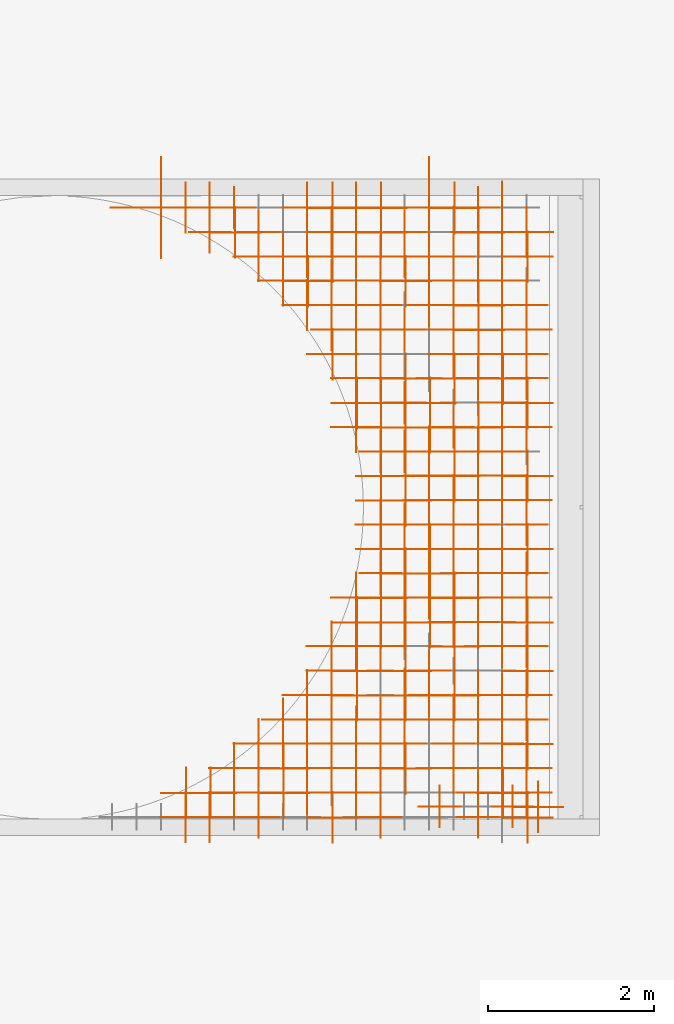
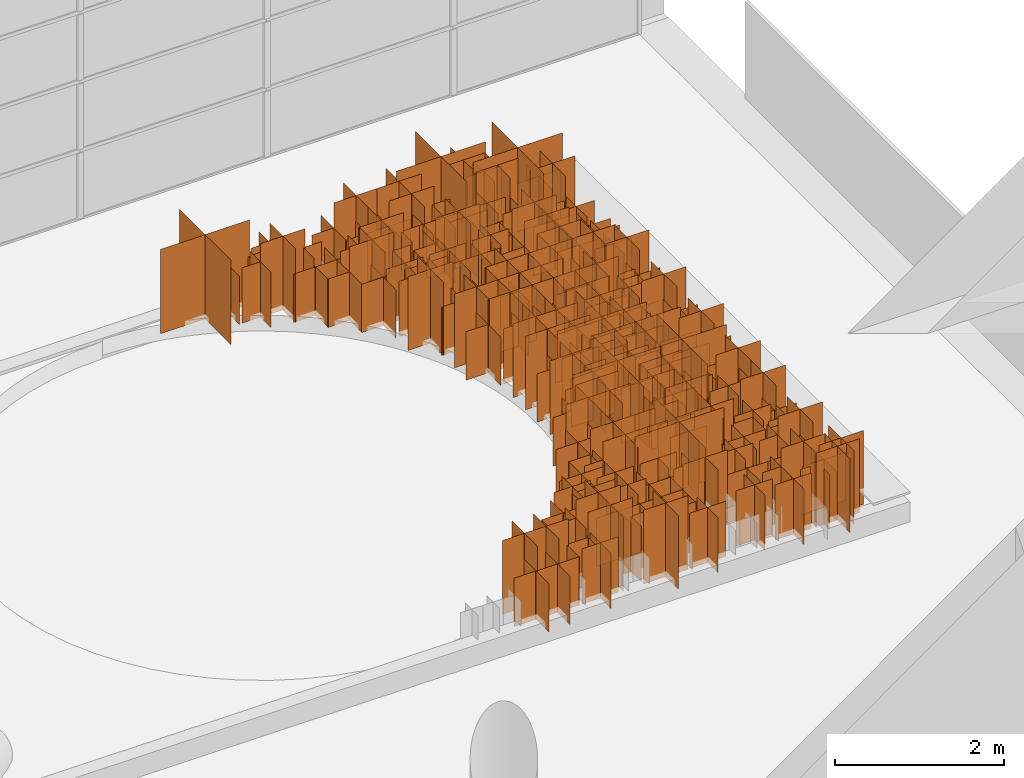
# One storey, part 104 of 105: 204 geographic elements.
"""IFC4 building model written with IfcOpenShell, lengths in millimetres."""

from ifc_helpers import new_model, entity, si_unit, converted_unit, derived_unit, direction, frame, origin_with_axes, place, context, subcontext, project, spatial, triangles, material, type_object, element, save


model = new_model("IFC4")

# Units and contexts
model_context = context("Model", 3, precision=1e-05, world=origin_with_axes(), true_north=direction((0.0, 1.0)))
body_context = subcontext(model_context, "Body", "Model", "MODEL_VIEW")
ifc_project = project(units=[si_unit("LENGTHUNIT", "METRE", prefix="MILLI"), si_unit("AREAUNIT", "SQUARE_METRE"), si_unit("VOLUMEUNIT", "CUBIC_METRE"), converted_unit("PLANEANGLEUNIT", "DEGREE", entity("IfcLengthMeasure", 0.017453), si_unit("PLANEANGLEUNIT", "RADIAN"), dimensions=[0, 0, 0, 0, 0, 0, 0]), si_unit("SOLIDANGLEUNIT", "STERADIAN"), si_unit("MASSUNIT", "GRAM"), si_unit("TIMEUNIT", "SECOND"), si_unit("THERMODYNAMICTEMPERATUREUNIT", "DEGREE_CELSIUS"), si_unit("LUMINOUSINTENSITYUNIT", "LUMEN"), si_unit("POWERUNIT", "WATT"), derived_unit("THERMALTRANSMITTANCEUNIT", [(si_unit("POWERUNIT", "WATT"), 1), (si_unit("THERMODYNAMICTEMPERATUREUNIT", "KELVIN"), -1), (si_unit("AREAUNIT", "SQUARE_METRE"), -1)])], contexts=[model_context])

# Site, building, storey
site_placement = place(None, origin_with_axes())
site = spatial("IfcSite", under=ifc_project, at=site_placement, Name="Default Site", CompositionType="ELEMENT")
building_placement = place(site_placement, origin_with_axes())
building = spatial("IfcBuilding", under=site, at=building_placement, Name="Default Building", CompositionType="ELEMENT")
storey_placement = place(building_placement, origin_with_axes())
storey = spatial("IfcBuildingStorey", under=building, at=storey_placement, Name="OG - Story", CompositionType="ELEMENT", Elevation=0.0)

# Geographic elements
ifc_material = material(Name="Plant Material")
geographic_element_type_1 = type_object("IfcGeographicElementType", Name="Contemporary Garden", PredefinedType="NOTDEFINED")
placement = place(storey_placement, frame((70423.72863, -30441.633075, 3200.0), z_axis=(0.0, 0.0, 1.0), x_axis=(1.0, 0.0, 0.0)))
for number, where, z_axis, x_axis, name in (
    (1, (3958.827751, -4836.34727, 0.0), (0.0, 0.0, 1.0), (1.0, 0.0, 0.0), "Russian Sage"),
    (2, (3958.827751, -5129.59377, 0.0), (0.0, 0.0, 1.0), (1.0, 0.0, 0.0), "Russian Sage"),
    (3, (3958.827751, -2490.375269, 0.0), (0.0, 0.0, 1.0), (1.0, 0.0, 0.0), "Russian Sage"),
    (4, (4838.567252, -6009.33327, 0.0), (0.0, 0.0, 1.0), (1.0, 0.0, 0.0), "Russian Sage"),
    (5, (5131.813752, -2783.621769, 0.0), (0.0, 0.0, 1.0), (1.0, 0.0, 0.0), "Russian Sage"),
    (6, (4545.320752, -2783.621769, 0.0), (0.0, 0.0, 1.0), (1.0, 0.0, 0.0), "Russian Sage"),
    (7, (4838.567252, -4836.34727, 0.0), (0.0, 0.0, 1.0), (1.0, 0.0, 0.0), "Russian Sage"),
    (8, (1612.855751, -7182.319271, 0.0), (0.0, 0.0, 1.0), (1.0, 0.0, 0.0), "Russian Sage"),
    (9, (5718.306752, -4249.85427, 0.0), (0.0, 0.0, 1.0), (1.0, 0.0, 0.0), "Russian Sage"),
    (10, (4252.074252, -5129.59377, 0.0), (0.0, 0.0, 1.0), (1.0, 0.0, 0.0), "Russian Sage"),
    (11, (3958.827751, -2783.621769, 0.0), (0.0, 0.0, 1.0), (1.0, 0.0, 0.0), "Russian Sage"),
    (12, (5718.306752, -5129.59377, 0.0), (0.0, 0.0, 1.0), (1.0, 0.0, 0.0), "Russian Sage"),
    (13, (5718.306752, -6595.82627, 0.0), (0.0, 0.0, 1.0), (1.0, 0.0, 0.0), "Russian Sage"),
    (14, (3958.827751, -144.403268, 0.0), (0.0, 0.0, 1.0), (1.0, 0.0, 0.0), "Russian Sage"),
    (15, (4545.320752, -5129.59377, 0.0), (0.0, 0.0, 1.0), (1.0, 0.0, 0.0), "Russian Sage"),
    (16, (4252.074252, -3663.361269, 0.0), (0.0, 0.0, 1.0), (1.0, 0.0, 0.0), "Russian Sage"),
    (17, (3958.827751, -4249.85427, 0.0), (0.0, 0.0, 1.0), (1.0, 0.0, 0.0), "Russian Sage"),
    (18, (4838.567252, -144.403268, 0.0), (0.0, 0.0, 1.0), (1.0, 0.0, 0.0), "Russian Sage"),
    (19, (3372.334751, -7475.565771, 0.0), (0.0, 0.0, 1.0), (1.0, 0.0, 0.0), "Russian Sage"),
    (20, (4838.567252, -3370.114769, 0.0), (0.0, 0.0, 1.0), (1.0, 0.0, 0.0), "Russian Sage"),
    (21, (4545.320752, -2490.375269, 0.0), (0.0, 0.0, 1.0), (1.0, 0.0, 0.0), "Russian Sage"),
    (22, (3958.827751, -437.649768, 0.0), (0.0, 0.0, 1.0), (1.0, 0.0, 0.0), "Russian Sage"),
    (23, (2785.841751, -6889.07277, 0.0), (0.0, 0.0, 1.0), (1.0, 0.0, 0.0), "Russian Sage"),
    (24, (4545.320752, -4543.10077, 0.0), (0.0, 0.0, 1.0), (1.0, 0.0, 0.0), "Russian Sage"),
    (25, (4252.074252, -4543.10077, 0.0), (0.0, 0.0, 1.0), (1.0, 0.0, 0.0), "Russian Sage"),
    (26, (4838.567252, -5422.84027, 0.0), (0.0, 0.0, 1.0), (1.0, 0.0, 0.0), "Russian Sage"),
    (27, (3665.581251, -6009.33327, 0.0), (0.0, 0.0, 1.0), (1.0, 0.0, 0.0), "Russian Sage"),
    (28, (3372.334751, -144.403268, 0.0), (0.0, 0.0, 1.0), (1.0, 0.0, 0.0), "Russian Sage"),
    (29, (5131.813752, -1903.882269, 0.0), (0.0, 0.0, 1.0), (1.0, 0.0, 0.0), "Russian Sage"),
    (30, (4545.320752, -4249.85427, 0.0), (0.0, 0.0, 1.0), (1.0, 0.0, 0.0), "Russian Sage"),
    (31, (3665.581251, -5716.08677, 0.0), (0.0, 0.0, 1.0), (1.0, 0.0, 0.0), "Russian Sage"),
    (32, (4252.074252, -5716.08677, 0.0), (0.0, 0.0, 1.0), (1.0, 0.0, 0.0), "Russian Sage"),
    (33, (5131.813752, -437.649768, 0.0), (0.0, 0.0, 1.0), (1.0, 0.0, 0.0), "Russian Sage"),
    (34, (2199.348751, -437.649768, 0.0), (0.0, 0.0, 1.0), (1.0, 0.0, 0.0), "Russian Sage"),
    (35, (3665.581251, -5129.59377, 0.0), (0.0, 0.0, 1.0), (1.0, 0.0, 0.0), "Russian Sage"),
    (36, (5718.306752, -2490.375269, 0.0), (0.0, 0.0, 1.0), (1.0, 0.0, 0.0), "Russian Sage"),
    (37, (2785.841751, -7182.319271, 0.0), (0.0, 0.0, 1.0), (1.0, 0.0, 0.0), "Russian Sage"),
    (38, (3958.827751, -3370.114769, 0.0), (0.0, 0.0, 1.0), (1.0, 0.0, 0.0), "Russian Sage"),
    (39, (5131.813752, -1610.635769, 0.0), (0.0, 0.0, 1.0), (1.0, 0.0, 0.0), "Russian Sage"),
    (40, (5425.060252, -7182.319271, 0.0), (0.0, 0.0, 1.0), (1.0, 0.0, 0.0), "Russian Sage"),
    (41, (1906.102251, -7182.319271, 0.0), (0.0, 0.0, 1.0), (1.0, 0.0, 0.0), "Russian Sage"),
    (42, (4838.567252, -2197.128769, 0.0), (0.0, 0.0, 1.0), (1.0, 0.0, 0.0), "Russian Sage"),
    (43, (4252.074252, -2197.128769, 0.0), (0.0, 0.0, 1.0), (1.0, 0.0, 0.0), "Russian Sage"),
    (44, (4252.074252, -6889.07277, 0.0), (0.0, 0.0, 1.0), (1.0, 0.0, 0.0), "Russian Sage"),
    (45, (5131.813752, -1317.389268, 0.0), (0.0, 0.0, 1.0), (1.0, 0.0, 0.0), "Russian Sage"),
    (46, (4252.074252, -6009.33327, 0.0), (0.0, 0.0, 1.0), (1.0, 0.0, 0.0), "Russian Sage"),
    (47, (3372.334751, -1903.882269, 0.0), (0.0, 0.0, 1.0), (1.0, 0.0, 0.0), "Russian Sage"),
    (48, (4252.074252, -2783.621769, 0.0), (0.0, 0.0, 1.0), (1.0, 0.0, 0.0), "Russian Sage"),
    (49, (4252.074252, -3370.114769, 0.0), (0.0, 0.0, 1.0), (1.0, 0.0, 0.0), "Russian Sage"),
    (50, (4838.567252, -3076.868269, 0.0), (0.0, 0.0, 1.0), (1.0, 0.0, 0.0), "Russian Sage"),
    (51, (5718.306752, -5716.08677, 0.0), (0.0, 0.0, 1.0), (1.0, 0.0, 0.0), "Russian Sage"),
    (52, (3958.827751, -3663.361269, 0.0), (0.0, 0.0, 1.0), (1.0, 0.0, 0.0), "Russian Sage"),
    (53, (3665.581251, -2490.375269, 0.0), (0.0, 0.0, 1.0), (1.0, 0.0, 0.0), "Russian Sage"),
    (54, (5718.306752, -3370.114769, 0.0), (0.0, 0.0, 1.0), (1.0, 0.0, 0.0), "Russian Sage"),
    (55, (5425.060252, -2197.128769, 0.0), (0.0, 0.0, 1.0), (1.0, 0.0, 0.0), "Russian Sage"),
    (56, (5718.306752, -7475.565771, 0.0), (0.0, 0.0, 1.0), (1.0, 0.0, 0.0), "Russian Sage"),
    (57, (5843.64812, -7350.453174, 0.0), (0.0, 0.0, 1.0), (1.0, 0.0, 0.0), "Russian Sage"),
    (58, (5718.306752, -730.896268, 0.0), (0.0, 0.0, 1.0), (1.0, 0.0, 0.0), "Russian Sage"),
    (59, (4252.074252, -1024.142768, 0.0), (0.0, 0.0, 1.0), (1.0, 0.0, 0.0), "Russian Sage"),
    (60, (3079.088251, -1024.142768, 0.0), (0.0, 0.0, 1.0), (1.0, 0.0, 0.0), "Russian Sage"),
    (61, (3372.334751, -730.896268, 0.0), (0.0, 0.0, 1.0), (1.0, 0.0, 0.0), "Russian Sage"),
):
    element("IfcGeographicElement", number, at=place(placement, frame(where, z_axis=z_axis, x_axis=x_axis)), inside=storey, type_object=geographic_element_type_1, material=ifc_material, Name=name, ObjectType="Perovskia atriplicifolia 'Blue Spire'", context=body_context, shape_type="Tessellation", body=[
        triangles([(-294.594, -5.103, 0.0), (315.005, -5.103, 0.0), (315.005, -5.103, 1066.8), (-294.594, -5.103, 1066.8)], [[1, 2, 3], [1, 3, 4]], closed=False),
        triangles([(10.205, -309.903, 0.0), (10.205, 299.696, 0.0), (10.205, 299.696, 1066.8), (10.205, -309.903, 1066.8)], [[1, 2, 3], [1, 3, 4]], closed=False),
    ])
geographic_element_type_2 = type_object("IfcGeographicElementType", Name="Contemporary Garden", PredefinedType="NOTDEFINED")
for number, where, z_axis, x_axis, name in (
    (62, (1612.855751, -7475.565771, 0.0), (0.0, 0.0, 1.0), (1.0, 0.0, 0.0), "Hidcote Blue English Lavender"),
    (63, (5131.813752, -4249.85427, 0.0), (0.0, 0.0, 1.0), (1.0, 0.0, 0.0), "Hidcote Blue English Lavender"),
    (64, (5425.060252, -1317.389268, 0.0), (0.0, 0.0, 1.0), (1.0, 0.0, 0.0), "Hidcote Blue English Lavender"),
    (65, (5718.306752, -3663.361269, 0.0), (0.0, 0.0, 1.0), (1.0, 0.0, 0.0), "Hidcote Blue English Lavender"),
    (66, (5131.813752, -3370.114769, 0.0), (0.0, 0.0, 1.0), (1.0, 0.0, 0.0), "Hidcote Blue English Lavender"),
    (67, (2492.595251, -6595.82627, 0.0), (0.0, 0.0, 1.0), (1.0, 0.0, 0.0), "Hidcote Blue English Lavender"),
    (68, (5718.306752, -6009.33327, 0.0), (0.0, 0.0, 1.0), (1.0, 0.0, 0.0), "Hidcote Blue English Lavender"),
    (69, (5425.060252, -6889.07277, 0.0), (0.0, 0.0, 1.0), (1.0, 0.0, 0.0), "Hidcote Blue English Lavender"),
    (70, (4545.320752, -3370.114769, 0.0), (0.0, 0.0, 1.0), (1.0, 0.0, 0.0), "Hidcote Blue English Lavender"),
    (71, (2492.595251, -7182.319271, 0.0), (0.0, 0.0, 1.0), (1.0, 0.0, 0.0), "Hidcote Blue English Lavender"),
    (72, (4838.567252, -6302.57977, 0.0), (0.0, 0.0, 1.0), (1.0, 0.0, 0.0), "Hidcote Blue English Lavender"),
    (73, (2785.841751, -6595.82627, 0.0), (0.0, 0.0, 1.0), (1.0, 0.0, 0.0), "Hidcote Blue English Lavender"),
    (74, (2199.348751, -7182.319271, 0.0), (0.0, 0.0, 1.0), (1.0, 0.0, 0.0), "Hidcote Blue English Lavender"),
    (75, (5131.813752, -6302.57977, 0.0), (0.0, 0.0, 1.0), (1.0, 0.0, 0.0), "Hidcote Blue English Lavender"),
    (76, (3958.827751, -6889.07277, 0.0), (0.0, 0.0, 1.0), (1.0, 0.0, 0.0), "Hidcote Blue English Lavender"),
    (77, (5718.306752, -2783.621769, 0.0), (0.0, 0.0, 1.0), (1.0, 0.0, 0.0), "Hidcote Blue English Lavender"),
    (78, (3665.581251, -7182.319271, 0.0), (0.0, 0.0, 1.0), (1.0, 0.0, 0.0), "Hidcote Blue English Lavender"),
    (79, (4838.567252, -1903.882269, 0.0), (0.0, 0.0, 1.0), (1.0, 0.0, 0.0), "Hidcote Blue English Lavender"),
    (80, (3665.581251, -2783.621769, 0.0), (0.0, 0.0, 1.0), (1.0, 0.0, 0.0), "Hidcote Blue English Lavender"),
    (81, (5425.060252, -2490.375269, 0.0), (0.0, 0.0, 1.0), (1.0, 0.0, 0.0), "Hidcote Blue English Lavender"),
    (82, (3958.827751, -3956.607769, 0.0), (0.0, 0.0, 1.0), (1.0, 0.0, 0.0), "Hidcote Blue English Lavender"),
    (83, (5718.306752, -6889.07277, 0.0), (0.0, 0.0, 1.0), (1.0, 0.0, 0.0), "Hidcote Blue English Lavender"),
    (84, (5425.060252, -3663.361269, 0.0), (0.0, 0.0, 1.0), (1.0, 0.0, 0.0), "Hidcote Blue English Lavender"),
    (85, (3665.581251, -6595.82627, 0.0), (0.0, 0.0, 1.0), (1.0, 0.0, 0.0), "Hidcote Blue English Lavender"),
    (86, (3665.581251, -6889.07277, 0.0), (0.0, 0.0, 1.0), (1.0, 0.0, 0.0), "Hidcote Blue English Lavender"),
    (87, (3958.827751, -2197.128769, 0.0), (0.0, 0.0, 1.0), (1.0, 0.0, 0.0), "Hidcote Blue English Lavender"),
    (88, (3665.581251, -4836.34727, 0.0), (0.0, 0.0, 1.0), (1.0, 0.0, 0.0), "Hidcote Blue English Lavender"),
    (89, (3079.088251, -6889.07277, 0.0), (0.0, 0.0, 1.0), (1.0, 0.0, 0.0), "Hidcote Blue English Lavender"),
    (90, (4838.567252, -5129.59377, 0.0), (0.0, 0.0, 1.0), (1.0, 0.0, 0.0), "Hidcote Blue English Lavender"),
    (91, (3958.827751, -6595.82627, 0.0), (0.0, 0.0, 1.0), (1.0, 0.0, 0.0), "Hidcote Blue English Lavender"),
    (92, (3665.581251, -2197.128769, 0.0), (0.0, 0.0, 1.0), (1.0, 0.0, 0.0), "Hidcote Blue English Lavender"),
    (93, (4838.567252, -3956.607769, 0.0), (0.0, 0.0, 1.0), (1.0, 0.0, 0.0), "Hidcote Blue English Lavender"),
    (94, (2199.348751, -6889.07277, 0.0), (0.0, 0.0, 1.0), (1.0, 0.0, 0.0), "Hidcote Blue English Lavender"),
    (95, (3372.334751, -6889.07277, 0.0), (0.0, 0.0, 1.0), (1.0, 0.0, 0.0), "Hidcote Blue English Lavender"),
    (96, (3665.581251, -5422.84027, 0.0), (0.0, 0.0, 1.0), (1.0, 0.0, 0.0), "Hidcote Blue English Lavender"),
    (97, (4838.567252, -6889.07277, 0.0), (0.0, 0.0, 1.0), (1.0, 0.0, 0.0), "Hidcote Blue English Lavender"),
    (98, (3079.088251, -6009.33327, 0.0), (0.0, 0.0, 1.0), (1.0, 0.0, 0.0), "Hidcote Blue English Lavender"),
    (99, (4838.567252, -1610.635769, 0.0), (0.0, 0.0, 1.0), (1.0, 0.0, 0.0), "Hidcote Blue English Lavender"),
    (100, (5718.306752, -4836.34727, 0.0), (0.0, 0.0, 1.0), (1.0, 0.0, 0.0), "Hidcote Blue English Lavender"),
    (101, (3958.827751, -5422.84027, 0.0), (0.0, 0.0, 1.0), (1.0, 0.0, 0.0), "Hidcote Blue English Lavender"),
    (102, (5131.813752, -6009.33327, 0.0), (0.0, 0.0, 1.0), (1.0, 0.0, 0.0), "Hidcote Blue English Lavender"),
    (103, (1906.102251, -144.403268, 0.0), (0.0, 0.0, 1.0), (1.0, 0.0, 0.0), "Hidcote Blue English Lavender"),
    (104, (5425.060252, -4836.34727, 0.0), (0.0, 0.0, 1.0), (1.0, 0.0, 0.0), "Hidcote Blue English Lavender"),
    (105, (3079.088251, -6302.57977, 0.0), (0.0, 0.0, 1.0), (1.0, 0.0, 0.0), "Hidcote Blue English Lavender"),
    (106, (4252.074252, -4249.85427, 0.0), (0.0, 0.0, 1.0), (1.0, 0.0, 0.0), "Hidcote Blue English Lavender"),
    (107, (5718.306752, -1610.635769, 0.0), (0.0, 0.0, 1.0), (1.0, 0.0, 0.0), "Hidcote Blue English Lavender"),
    (108, (5131.813752, -3076.868269, 0.0), (0.0, 0.0, 1.0), (1.0, 0.0, 0.0), "Hidcote Blue English Lavender"),
    (109, (5425.060252, -6302.57977, 0.0), (0.0, 0.0, 1.0), (1.0, 0.0, 0.0), "Hidcote Blue English Lavender"),
    (110, (3372.334751, -437.649768, 0.0), (0.0, 0.0, 1.0), (1.0, 0.0, 0.0), "Hidcote Blue English Lavender"),
    (111, (3665.581251, -144.403268, 0.0), (0.0, 0.0, 1.0), (1.0, 0.0, 0.0), "Hidcote Blue English Lavender"),
    (112, (5425.060252, -1903.882269, 0.0), (0.0, 0.0, 1.0), (1.0, 0.0, 0.0), "Hidcote Blue English Lavender"),
    (113, (3079.088251, -144.403268, 0.0), (0.0, 0.0, 1.0), (1.0, 0.0, 0.0), "Hidcote Blue English Lavender"),
    (114, (3372.334751, -5716.08677, 0.0), (0.0, 0.0, 1.0), (1.0, 0.0, 0.0), "Hidcote Blue English Lavender"),
    (115, (5131.813752, -4543.10077, 0.0), (0.0, 0.0, 1.0), (1.0, 0.0, 0.0), "Hidcote Blue English Lavender"),
    (116, (1906.102251, -7475.565771, 0.0), (0.0, 0.0, 1.0), (1.0, 0.0, 0.0), "Hidcote Blue English Lavender"),
    (117, (1612.855751, -144.403268, 0.0), (0.0, 0.0, 1.0), (1.0, 0.0, 0.0), "Hidcote Blue English Lavender"),
    (118, (3372.334751, -5422.84027, 0.0), (0.0, 0.0, 1.0), (1.0, 0.0, 0.0), "Hidcote Blue English Lavender"),
    (119, (5718.306752, -7182.319271, 0.0), (0.0, 0.0, 1.0), (1.0, 0.0, 0.0), "Hidcote Blue English Lavender"),
    (120, (4838.567252, -1024.142768, 0.0), (0.0, 0.0, 1.0), (1.0, 0.0, 0.0), "Hidcote Blue English Lavender"),
    (121, (3958.827751, -1024.142768, 0.0), (0.0, 0.0, 1.0), (1.0, 0.0, 0.0), "Hidcote Blue English Lavender"),
    (122, (2492.595251, -730.896268, 0.0), (0.0, 0.0, 1.0), (1.0, 0.0, 0.0), "Hidcote Blue English Lavender"),
    (123, (4838.567252, -1317.389268, 0.0), (0.0, 0.0, 1.0), (1.0, 0.0, 0.0), "Hidcote Blue English Lavender"),
    (124, (3665.581251, -1317.389268, 0.0), (0.0, 0.0, 1.0), (1.0, 0.0, 0.0), "Hidcote Blue English Lavender"),
    (125, (3079.088251, -1317.389268, 0.0), (0.0, 0.0, 1.0), (1.0, 0.0, 0.0), "Hidcote Blue English Lavender"),
    (126, (2785.841751, -730.896268, 0.0), (0.0, 0.0, 1.0), (1.0, 0.0, 0.0), "Hidcote Blue English Lavender"),
    (127, (3665.581251, -437.649768, 0.0), (0.0, 0.0, 1.0), (1.0, 0.0, 0.0), "Hidcote Blue English Lavender"),
    (128, (2785.841751, -1024.142768, 0.0), (0.0, 0.0, 1.0), (1.0, 0.0, 0.0), "Hidcote Blue English Lavender"),
    (129, (5425.060252, -3370.114769, 0.0), (0.0, 0.0, 1.0), (1.0, 0.0, 0.0), "Hidcote Blue English Lavender"),
    (130, (5718.306752, -437.649768, 0.0), (0.0, 0.0, 1.0), (1.0, 0.0, 0.0), "Hidcote Blue English Lavender"),
    (131, (4838.567252, -3663.361269, 0.0), (0.0, 0.0, 1.0), (1.0, 0.0, 0.0), "Hidcote Blue English Lavender"),
    (132, (4545.320752, -1024.142768, 0.0), (0.0, 0.0, 1.0), (1.0, 0.0, 0.0), "Hidcote Blue English Lavender"),
    (133, (5425.060252, -1024.142768, 0.0), (0.0, 0.0, 1.0), (1.0, 0.0, 0.0), "Hidcote Blue English Lavender"),
    (134, (4545.320752, -3076.868269, 0.0), (0.0, 0.0, 1.0), (1.0, 0.0, 0.0), "Hidcote Blue English Lavender"),
    (135, (4545.320752, -730.896268, 0.0), (0.0, 0.0, 1.0), (1.0, 0.0, 0.0), "Hidcote Blue English Lavender"),
):
    element("IfcGeographicElement", number, at=place(placement, frame(where, z_axis=z_axis, x_axis=x_axis)), inside=storey, type_object=geographic_element_type_2, material=ifc_material, Name=name, ObjectType="Lavandula angustifolia 'Hidcote Blue'", context=body_context, shape_type="Tessellation", body=[
        triangles([(-299.999, 0.0, 0.0), (300.0, 0.0, 0.0), (300.0, 0.0, 700.0), (-299.999, 0.0, 700.0)], [[1, 2, 3], [1, 3, 4]], closed=False),
        triangles([(0.0, -299.999, 0.0), (0.0, 300.0, 0.0), (0.0, 300.0, 700.0), (0.0, -299.999, 700.0)], [[1, 2, 3], [1, 3, 4]], closed=False),
    ])
geographic_element_type_3 = type_object("IfcGeographicElementType", Name="Contemporary Garden", PredefinedType="NOTDEFINED")
for number, where, z_axis, x_axis, name in (
    (136, (4545.320752, -3956.607769, 0.0), (0.0, 0.0, 1.0), (1.0, 0.0, 0.0), "Annabelle Hydrangea"),
    (137, (5131.813752, -4836.34727, 0.0), (0.0, 0.0, 1.0), (1.0, 0.0, 0.0), "Annabelle Hydrangea"),
    (138, (5425.060252, -437.649768, 0.0), (0.0, 0.0, 1.0), (1.0, 0.0, 0.0), "Annabelle Hydrangea"),
    (139, (4545.320752, -144.403268, 0.0), (0.0, 0.0, 1.0), (1.0, 0.0, 0.0), "Annabelle Hydrangea"),
    (140, (1319.60925, -144.403268, 0.0), (0.0, 0.0, 1.0), (1.0, 0.0, 0.0), "Annabelle Hydrangea"),
    (141, (4252.074252, -6302.57977, 0.0), (0.0, 0.0, 1.0), (1.0, 0.0, 0.0), "Annabelle Hydrangea"),
    (142, (4252.074252, -4836.34727, 0.0), (0.0, 0.0, 1.0), (1.0, 0.0, 0.0), "Annabelle Hydrangea"),
    (143, (4838.567252, -4249.85427, 0.0), (0.0, 0.0, 1.0), (1.0, 0.0, 0.0), "Annabelle Hydrangea"),
):
    element("IfcGeographicElement", number, at=place(placement, frame(where, z_axis=z_axis, x_axis=x_axis)), inside=storey, type_object=geographic_element_type_3, material=ifc_material, Name=name, ObjectType="Hydrangea arborescens 'Annabelle'", context=body_context, shape_type="Tessellation", body=[
        triangles([(-609.599, 0.0, 0.0), (609.6, 0.0, 0.0), (609.6, 0.0, 1219.2), (-609.599, 0.0, 1219.2)], [[1, 2, 3], [1, 3, 4]], closed=False),
        triangles([(0.0, -609.599, 0.0), (0.0, 609.6, 0.0), (0.0, 609.6, 1219.2), (0.0, -609.599, 1219.2)], [[1, 2, 3], [1, 3, 4]], closed=False),
    ])
geographic_element_type_4 = type_object("IfcGeographicElementType", Name="Contemporary Garden", PredefinedType="NOTDEFINED")
for number, where, z_axis, x_axis in (
    (144, (3958.827751, -3076.868269, 0.0), (0.0, 0.0, 1.0), (1.0, 0.0, 0.0)),
    (145, (3958.827751, -6302.57977, 0.0), (0.0, 0.0, 1.0), (1.0, 0.0, 0.0)),
    (146, (4545.320752, -6009.33327, 0.0), (0.0, 0.0, 1.0), (1.0, 0.0, 0.0)),
    (147, (5718.306752, -1317.389268, 0.0), (0.0, 0.0, 1.0), (1.0, 0.0, 0.0)),
    (148, (3372.334751, -6302.57977, 0.0), (0.0, 0.0, 1.0), (1.0, 0.0, 0.0)),
    (149, (3665.581251, -1610.635769, 0.0), (0.0, 0.0, 1.0), (1.0, 0.0, 0.0)),
    (150, (2785.841751, -6302.57977, 0.0), (0.0, 0.0, 1.0), (1.0, 0.0, 0.0)),
    (151, (2492.595251, -7475.565771, 0.0), (0.0, 0.0, 1.0), (1.0, 0.0, 0.0)),
    (152, (3372.334751, -1610.635769, 0.0), (0.0, 0.0, 1.0), (1.0, 0.0, 0.0)),
    (153, (4838.567252, -6595.82627, 0.0), (0.0, 0.0, 1.0), (1.0, 0.0, 0.0)),
    (154, (5425.060252, -6009.33327, 0.0), (0.0, 0.0, 1.0), (1.0, 0.0, 0.0)),
    (155, (2492.595251, -6889.07277, 0.0), (0.0, 0.0, 1.0), (1.0, 0.0, 0.0)),
    (156, (4252.074252, -2490.375269, 0.0), (0.0, 0.0, 1.0), (1.0, 0.0, 0.0)),
    (157, (5131.813752, -7182.319271, 0.0), (0.0, 0.0, 1.0), (1.0, 0.0, 0.0)),
    (158, (5718.306752, -6302.57977, 0.0), (0.0, 0.0, 1.0), (1.0, 0.0, 0.0)),
    (159, (3372.334751, -6595.82627, 0.0), (0.0, 0.0, 1.0), (1.0, 0.0, 0.0)),
    (160, (4838.567252, -2783.621769, 0.0), (0.0, 0.0, 1.0), (1.0, 0.0, 0.0)),
    (161, (3079.088251, -7182.319271, 0.0), (0.0, 0.0, 1.0), (1.0, 0.0, 0.0)),
    (162, (4252.074252, -3076.868269, 0.0), (0.0, 0.0, 1.0), (1.0, 0.0, 0.0)),
    (163, (5425.060252, -6595.82627, 0.0), (0.0, 0.0, 1.0), (1.0, 0.0, 0.0)),
    (164, (5718.306752, -2197.128769, 0.0), (0.0, 0.0, 1.0), (1.0, 0.0, 0.0)),
    (165, (3372.334751, -6009.33327, 0.0), (0.0, 0.0, 1.0), (1.0, 0.0, 0.0)),
    (166, (4252.074252, -6595.82627, 0.0), (0.0, 0.0, 1.0), (1.0, 0.0, 0.0)),
    (167, (3958.827751, -4543.10077, 0.0), (0.0, 0.0, 1.0), (1.0, 0.0, 0.0)),
    (168, (4545.320752, -4836.34727, 0.0), (0.0, 0.0, 1.0), (1.0, 0.0, 0.0)),
    (169, (5718.306752, -4543.10077, 0.0), (0.0, 0.0, 1.0), (1.0, 0.0, 0.0)),
    (170, (5131.813752, -5129.59377, 0.0), (0.0, 0.0, 1.0), (1.0, 0.0, 0.0)),
    (171, (4252.074252, -1610.635769, 0.0), (0.0, 0.0, 1.0), (1.0, 0.0, 0.0)),
    (172, (5425.060252, -4543.10077, 0.0), (0.0, 0.0, 1.0), (1.0, 0.0, 0.0)),
    (173, (5425.060252, -3076.868269, 0.0), (0.0, 0.0, 1.0), (1.0, 0.0, 0.0)),
    (174, (1906.102251, -437.649768, 0.0), (0.0, 0.0, 1.0), (1.0, 0.0, 0.0)),
    (175, (5131.813752, -3956.607769, 0.0), (0.0, 0.0, 1.0), (1.0, 0.0, 0.0)),
    (176, (5131.813752, -144.403268, 0.0), (0.0, 0.0, 1.0), (1.0, 0.0, 0.0)),
    (177, (3958.827751, -7475.565771, 0.0), (0.0, 0.0, 1.0), (1.0, 0.0, 0.0)),
    (178, (4252.074252, -437.649768, 0.0), (0.0, 0.0, 1.0), (1.0, 0.0, 0.0)),
    (179, (3372.334751, -1317.389268, 0.0), (0.0, 0.0, 1.0), (1.0, 0.0, 0.0)),
    (180, (5425.060252, -4249.85427, 0.0), (0.0, 0.0, 1.0), (1.0, 0.0, 0.0)),
    (181, (5131.813752, -3663.361269, 0.0), (0.0, 0.0, 1.0), (1.0, 0.0, 0.0)),
    (182, (4838.567252, -730.896268, 0.0), (0.0, 0.0, 1.0), (1.0, 0.0, 0.0)),
    (183, (2199.348751, -144.403268, 0.0), (0.0, 0.0, 1.0), (1.0, 0.0, 0.0)),
    (184, (4670.66212, -7350.453174, 0.0), (0.0, 0.0, 1.0), (1.0, 0.0, 0.0)),
    (185, (3958.827751, -730.896268, 0.0), (0.0, 0.0, 1.0), (1.0, 0.0, 0.0)),
    (186, (5718.306752, -5422.84027, 0.0), (0.0, 0.0, 1.0), (1.0, 0.0, 0.0)),
    (187, (5131.813752, -7475.565771, 0.0), (0.0, 0.0, 1.0), (1.0, 0.0, 0.0)),
    (188, (5718.306752, -1903.882269, 0.0), (0.0, 0.0, 1.0), (1.0, 0.0, 0.0)),
    (189, (5425.060252, -5422.84027, 0.0), (0.0, 0.0, 1.0), (1.0, 0.0, 0.0)),
    (190, (4252.074252, -3956.607769, 0.0), (0.0, 0.0, 1.0), (1.0, 0.0, 0.0)),
    (191, (5718.306752, -3956.607769, 0.0), (0.0, 0.0, 1.0), (1.0, 0.0, 0.0)),
    (192, (4545.320752, -5716.08677, 0.0), (0.0, 0.0, 1.0), (1.0, 0.0, 0.0)),
    (193, (2492.595251, -437.649768, 0.0), (0.0, 0.0, 1.0), (1.0, 0.0, 0.0)),
    (194, (4252.074252, -730.896268, 0.0), (0.0, 0.0, 1.0), (1.0, 0.0, 0.0)),
    (195, (5550.40162, -7350.453174, 0.0), (0.0, 0.0, 1.0), (1.0, 0.0, 0.0)),
    (196, (5131.813752, -2197.128769, 0.0), (0.0, 0.0, 1.0), (1.0, 0.0, 0.0)),
    (197, (3958.827751, -1610.635769, 0.0), (0.0, 0.0, 1.0), (1.0, 0.0, 0.0)),
    (198, (5425.060252, -2783.621769, 0.0), (0.0, 0.0, 1.0), (1.0, 0.0, 0.0)),
    (199, (3665.581251, -730.896268, 0.0), (0.0, 0.0, 1.0), (1.0, 0.0, 0.0)),
    (200, (3958.827751, -1317.389268, 0.0), (0.0, 0.0, 1.0), (1.0, 0.0, 0.0)),
    (201, (3372.334751, -1024.142768, 0.0), (0.0, 0.0, 1.0), (1.0, 0.0, 0.0)),
    (202, (4545.320752, -1317.389268, 0.0), (0.0, 0.0, 1.0), (1.0, 0.0, 0.0)),
    (203, (3079.088251, -730.896268, 0.0), (0.0, 0.0, 1.0), (1.0, 0.0, 0.0)),
    (204, (5131.813752, -1024.142768, 0.0), (0.0, 0.0, 1.0), (1.0, 0.0, 0.0)),
):
    element("IfcGeographicElement", number, at=place(placement, frame(where, z_axis=z_axis, x_axis=x_axis)), inside=storey, type_object=geographic_element_type_4, material=ifc_material, ObjectType="Agapanthus 'Purple Cloud'", context=body_context, shape_type="Tessellation", body=[
        triangles([(-249.999, 0.0, 0.0), (250.0, 0.0, 0.0), (250.0, 0.0, 800.0), (-249.999, 0.0, 800.0)], [[1, 2, 3], [1, 3, 4]], closed=False),
        triangles([(0.0, -249.999, 0.0), (0.0, 250.0, 0.0), (0.0, 250.0, 800.0), (0.0, -249.999, 800.0)], [[1, 2, 3], [1, 3, 4]], closed=False),
    ])

save(model, "model.ifc")
